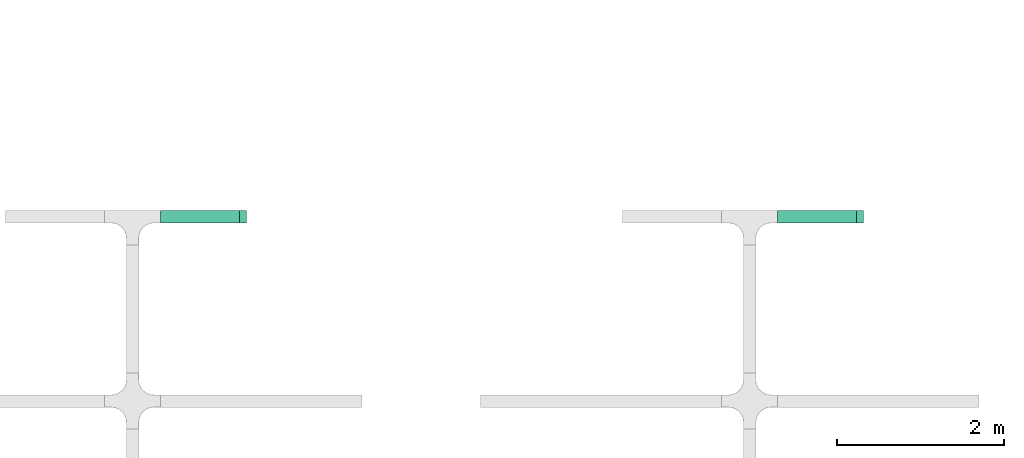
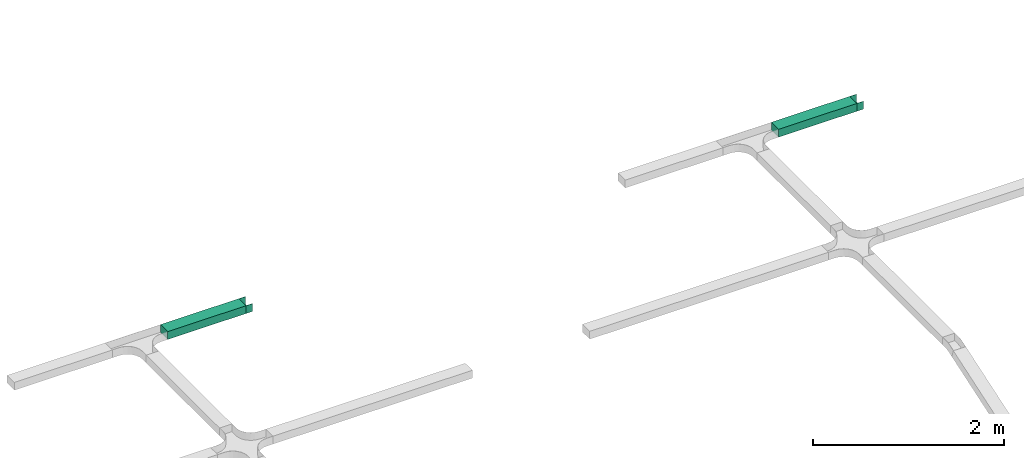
# One storey, part 23 of 197: 2 flow fittings, 2 flow segments.
"""IFC2X3 building model written with IfcOpenShell, lengths in metres."""

from ifc_helpers import new_model, entity, si_unit, converted_unit, direction, frame, frame_2d, origin, place, context, subcontext, project, spatial, polyline, rectangle, outline, extrude, source, transform, mapped, material, type_object, type_shapes, element, save


model = new_model("IFC2X3")

# Units and contexts
model_context = context("Model", 3, precision=1e-05, world=origin(), true_north=direction((6.123031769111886e-17, 1.0)))
body_context = subcontext(model_context, "Body", "Model", "MODEL_VIEW")
ifc_project = project(units=[si_unit("LENGTHUNIT", "METRE"), converted_unit("PLANEANGLEUNIT", "DEGREE", entity("IfcPlaneAngleMeasure", 0.017453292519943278), si_unit("PLANEANGLEUNIT", "RADIAN"), dimensions=[0, 0, 0, 0, 0, 0, 0]), si_unit("AREAUNIT", "SQUARE_METRE")], contexts=[model_context])

# Site, building, storey
site_placement = place(None, origin())
site = spatial("IfcSite", under=ifc_project, at=site_placement, Name="Default", CompositionType="ELEMENT")
building_placement = place(site_placement, origin())
building = spatial("IfcBuilding", under=site, at=building_placement, CompositionType="ELEMENT")
storey_placement = place(building_placement, origin())
storey = spatial("IfcBuildingStorey", under=building, at=storey_placement, Name="Niveau 0", CompositionType="ELEMENT", Elevation=0.0)

# Flow segment
cable_carrier_segment_type_1 = type_object("IfcCableCarrierSegmentType", Name="Chemin de câbles avec raccords:CDC INCENDIE", PredefinedType="CABLETRAYSEGMENT")
flow_segment_1_placement = place(storey_placement, origin())
element("IfcFlowSegment", 1, at=flow_segment_1_placement, inside=storey, type_object=cable_carrier_segment_type_1, Name="Chemin de câbles avec raccords:CDC INCENDIE", ObjectType="Chemin de câbles avec raccords:CDC INCENDIE", context=body_context, shape_type="SweptSolid", body=[
    extrude(rectangle(XDim=0.9460000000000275, YDim=0.15000000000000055, at=frame_2d((-3.4638958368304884e-14, 0.0), x_axis=(1.0, 0.0))), frame((-494.5419800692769, 153.82491437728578, 2.6999999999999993)), (0.0, 0.0, 1.0), 0.1),
])

# Flow fitting
ifc_material = material(Name="<Unnamed>")
cable_carrier_fitting_type_1 = type_object("IfcCableCarrierFittingType", Name="Chemin de câbles - Union:CDC INCENDIE", PredefinedType="NOTDEFINED", material=ifc_material)
shared_shape_1 = source(origin(), body_context, "Body", "SweptSolid", [
    extrude(outline(polyline([(-0.0749999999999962, -0.05063499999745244), (0.07499999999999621, -0.05063499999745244), (0.07499999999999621, 0.049365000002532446), (0.0724600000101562, 0.049365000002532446), (0.0724600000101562, -0.04809500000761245), (-0.07246000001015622, -0.04809500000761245), (-0.0724600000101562, 0.049365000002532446), (-0.0749999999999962, 0.049365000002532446), (-0.0749999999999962, -0.05063499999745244)])), frame((0.0, 0.0, 0.000634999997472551), z_axis=(1.0, 0.0, 0.0), x_axis=(0.0, 1.0, 0.0)), (0.0, 0.0, 1.0), 0.07999999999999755),
])
type_shapes(cable_carrier_fitting_type_1, [shared_shape_1])
flow_fitting_1_placement = place(storey_placement, frame((-494.06898006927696, 153.82491437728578, 2.7499999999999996)))
element("IfcFlowFitting", 2, at=flow_fitting_1_placement, inside=storey, type_object=cable_carrier_fitting_type_1, material=ifc_material, Name="Chemin de câbles - Union:CDC INCENDIE", ObjectType="Chemin de câbles - Union:CDC INCENDIE", context=body_context, shape_type="MappedRepresentation", body=[
    mapped(shared_shape_1, transform((0.0, 0.0, 0.0), scale=1.0)),
])

# Flow segment
cable_carrier_segment_type_2 = type_object("IfcCableCarrierSegmentType", Name="Chemin de câbles avec raccords:CDC ENEDIS", PredefinedType="CABLETRAYSEGMENT")
flow_segment_2_placement = place(storey_placement, origin())
element("IfcFlowSegment", 3, at=flow_segment_2_placement, inside=storey, type_object=cable_carrier_segment_type_2, Name="Chemin de câbles avec raccords:CDC ENEDIS", ObjectType="Chemin de câbles avec raccords:CDC ENEDIS", context=body_context, shape_type="SweptSolid", body=[
    extrude(rectangle(XDim=0.9460000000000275, YDim=0.15000000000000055, at=frame_2d((-3.4638958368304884e-14, 0.0), x_axis=(1.0, 0.0))), frame((-487.1549800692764, 153.82491437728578, 2.6999999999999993)), (0.0, 0.0, 1.0), 0.1),
])

# Flow fitting
cable_carrier_fitting_type_2 = type_object("IfcCableCarrierFittingType", Name="Chemin de câbles - Union:CDC ENEDIS", PredefinedType="NOTDEFINED", material=ifc_material)
shared_shape_2 = source(origin(), body_context, "Body", "SweptSolid", [
    extrude(outline(polyline([(-0.0749999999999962, -0.05063499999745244), (0.07499999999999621, -0.05063499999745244), (0.07499999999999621, 0.049365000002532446), (0.0724600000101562, 0.049365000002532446), (0.0724600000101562, -0.04809500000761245), (-0.07246000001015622, -0.04809500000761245), (-0.0724600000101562, 0.049365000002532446), (-0.0749999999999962, 0.049365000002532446), (-0.0749999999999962, -0.05063499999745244)])), frame((0.0, 0.0, 0.000634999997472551), z_axis=(1.0, 0.0, 0.0), x_axis=(0.0, 1.0, 0.0)), (0.0, 0.0, 1.0), 0.07999999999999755),
])
type_shapes(cable_carrier_fitting_type_2, [shared_shape_2])
flow_fitting_2_placement = place(storey_placement, frame((-486.6819800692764, 153.82491437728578, 2.7499999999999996)))
element("IfcFlowFitting", 4, at=flow_fitting_2_placement, inside=storey, type_object=cable_carrier_fitting_type_2, material=ifc_material, Name="Chemin de câbles - Union:CDC ENEDIS", ObjectType="Chemin de câbles - Union:CDC ENEDIS", context=body_context, shape_type="MappedRepresentation", body=[
    mapped(shared_shape_2, transform((0.0, 0.0, 0.0), scale=1.0)),
])

save(model, "model.ifc")
